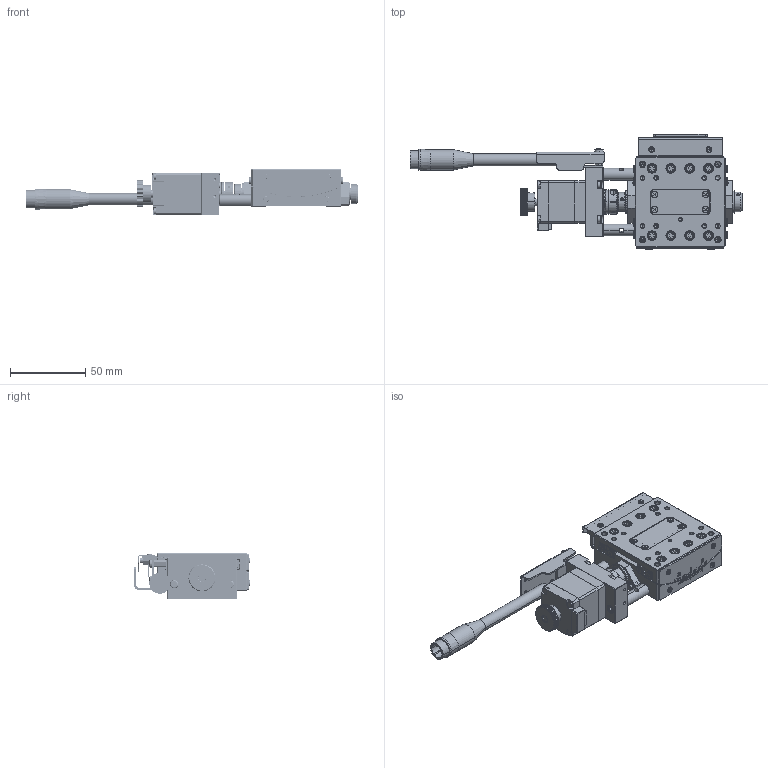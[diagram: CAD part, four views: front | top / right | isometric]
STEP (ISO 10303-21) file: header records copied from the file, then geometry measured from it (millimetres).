
FILE_DESCRIPTION (( 'STEP AP214' ), '1' );
FILE_NAME ('TAA6050-L1-M28R.STEP', '2025-01-03T08:20:58', ( '' ), ( '' ), 'SwSTEP 2.0', 'SolidWorks 2020', '' );
FILE_SCHEMA (( 'AUTOMOTIVE_DESIGN' ));
Length unit declared in the file: millimetre
Products named in the file (1): TAA6050-L1-M28R
Bounding box: 220.38 x 76.71 x 30.5 mm (x, y, z)
Volume: 127777.8 mm3; surface area: 69792.8 mm2
Topology: 24 solids, 146 shells, 4402 faces, 10997 edges, 6934 vertices
Faces by surface type: plane 2284, cylinder 1167, cone 393, bspline 298, torus 212, sphere 48
Entity records: 159464 total; most frequent: CARTESIAN_POINT 55773, ORIENTED_EDGE 21602, DIRECTION 20823, EDGE_CURVE 10801, AXIS2_PLACEMENT_3D 7228, VERTEX_POINT 6946, LINE 6367, VECTOR 6367
